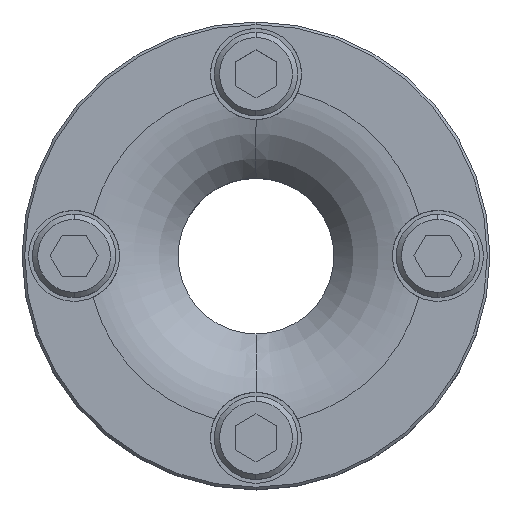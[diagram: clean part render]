
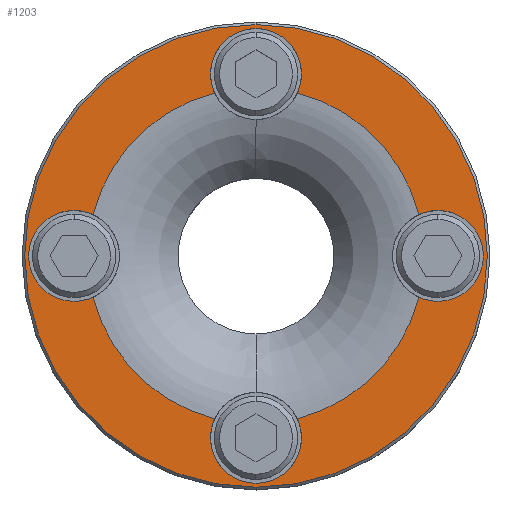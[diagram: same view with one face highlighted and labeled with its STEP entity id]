
A CAD part, top view. The second image highlights one B-rep face of the part: STEP entity #1203.
In plain terms, the highlighted planar face has unit normal (0, 0, 1).
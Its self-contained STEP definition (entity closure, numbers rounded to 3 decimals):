
#126=VERTEX_POINT(' ',#127);
#127=CARTESIAN_POINT('',(0.,-44.5,20.));
#132=VERTEX_POINT(' ',#133);
#133=CARTESIAN_POINT('',(0.,44.5,20.));
#174=VERTEX_POINT(' ',#175);
#175=CARTESIAN_POINT('',(7.943,31.329,20.));
#180=VERTEX_POINT(' ',#181);
#181=CARTESIAN_POINT('',(7.943,-31.329,20.));
#182=VERTEX_POINT(' ',#183);
#183=CARTESIAN_POINT('',(31.329,-7.943,20.));
#184=VERTEX_POINT(' ',#185);
#185=CARTESIAN_POINT('',(31.329,7.943,20.));
#186=VERTEX_POINT(' ',#187);
#187=CARTESIAN_POINT('',(-31.329,-7.943,20.));
#188=VERTEX_POINT(' ',#189);
#189=CARTESIAN_POINT('',(-35.,-8.75,20.));
#190=VERTEX_POINT(' ',#191);
#191=CARTESIAN_POINT('',(-35.,8.75,20.));
#192=VERTEX_POINT(' ',#193);
#193=CARTESIAN_POINT('',(-31.329,7.943,20.));
#194=VERTEX_POINT(' ',#195);
#195=CARTESIAN_POINT('',(-7.943,31.329,20.));
#196=VERTEX_POINT(' ',#197);
#197=CARTESIAN_POINT('',(0.,43.75,20.));
#198=VERTEX_POINT(' ',#199);
#199=CARTESIAN_POINT('',(35.,8.75,20.));
#200=VERTEX_POINT(' ',#201);
#201=CARTESIAN_POINT('',(35.,-8.75,20.));
#202=VERTEX_POINT(' ',#203);
#203=CARTESIAN_POINT('',(0.,-43.75,20.));
#204=VERTEX_POINT(' ',#205);
#205=CARTESIAN_POINT('',(-7.943,-31.329,20.));
#270=CIRCLE('',#271,44.5);
#271=AXIS2_PLACEMENT_3D('',#272,#273,#274);
#272=CARTESIAN_POINT('',(0.,0.,20.));
#273=DIRECTION('',(0.,0.,-1.));
#274=DIRECTION('',(-1.,0.,0.));
#275=EDGE_CURVE(' ',#132,#126,#270,.T.);
#276=CIRCLE('',#277,44.5);
#277=AXIS2_PLACEMENT_3D('',#278,#279,#280);
#278=CARTESIAN_POINT('',(0.,0.,20.));
#279=DIRECTION('',(0.,0.,-1.));
#280=DIRECTION('',(1.,0.,0.));
#281=EDGE_CURVE(' ',#126,#132,#276,.T.);
#530=CIRCLE('',#531,32.321);
#531=AXIS2_PLACEMENT_3D('',#532,#533,#534);
#532=CARTESIAN_POINT('',(0.,0.,20.));
#533=DIRECTION('',(0.,0.,-1.));
#534=DIRECTION('',(-1.,0.,0.));
#535=EDGE_CURVE(' ',#182,#180,#530,.T.);
#557=CIRCLE('',#558,32.321);
#558=AXIS2_PLACEMENT_3D('',#559,#560,#561);
#559=CARTESIAN_POINT('',(0.,0.,20.));
#560=DIRECTION('',(0.,0.,-1.));
#561=DIRECTION('',(-1.,0.,0.));
#562=EDGE_CURVE(' ',#174,#184,#557,.T.);
#563=CIRCLE('',#564,8.75);
#564=AXIS2_PLACEMENT_3D('',#565,#566,#567);
#565=CARTESIAN_POINT('',(-35.,0.,20.));
#566=DIRECTION('',(0.,0.,-1.));
#567=DIRECTION('',(-1.,0.,0.));
#568=EDGE_CURVE(' ',#188,#186,#563,.F.);
#569=CIRCLE('',#570,8.75);
#570=AXIS2_PLACEMENT_3D('',#571,#572,#573);
#571=CARTESIAN_POINT('',(-35.,0.,20.));
#572=DIRECTION('',(0.,0.,-1.));
#573=DIRECTION('',(1.,0.,0.));
#574=EDGE_CURVE(' ',#190,#188,#569,.F.);
#575=CIRCLE('',#576,8.75);
#576=AXIS2_PLACEMENT_3D('',#577,#578,#579);
#577=CARTESIAN_POINT('',(-35.,0.,20.));
#578=DIRECTION('',(0.,0.,-1.));
#579=DIRECTION('',(-1.,0.,0.));
#580=EDGE_CURVE(' ',#192,#190,#575,.F.);
#581=CIRCLE('',#582,32.321);
#582=AXIS2_PLACEMENT_3D('',#583,#584,#585);
#583=CARTESIAN_POINT('',(0.,0.,20.));
#584=DIRECTION('',(0.,0.,-1.));
#585=DIRECTION('',(1.,0.,0.));
#586=EDGE_CURVE(' ',#192,#194,#581,.T.);
#587=CIRCLE('',#588,8.75);
#588=AXIS2_PLACEMENT_3D('',#589,#590,#591);
#589=CARTESIAN_POINT('',(0.,35.,20.));
#590=DIRECTION('',(0.,0.,-1.));
#591=DIRECTION('',(1.,0.,0.));
#592=EDGE_CURVE(' ',#196,#194,#587,.F.);
#593=CIRCLE('',#594,8.75);
#594=AXIS2_PLACEMENT_3D('',#595,#596,#597);
#595=CARTESIAN_POINT('',(0.,35.,20.));
#596=DIRECTION('',(0.,0.,-1.));
#597=DIRECTION('',(-1.,0.,0.));
#598=EDGE_CURVE(' ',#174,#196,#593,.F.);
#599=CIRCLE('',#600,8.75);
#600=AXIS2_PLACEMENT_3D('',#601,#602,#603);
#601=CARTESIAN_POINT('',(35.,0.,20.));
#602=DIRECTION('',(0.,0.,-1.));
#603=DIRECTION('',(1.,0.,0.));
#604=EDGE_CURVE(' ',#198,#184,#599,.F.);
#605=CIRCLE('',#606,8.75);
#606=AXIS2_PLACEMENT_3D('',#607,#608,#609);
#607=CARTESIAN_POINT('',(35.,0.,20.));
#608=DIRECTION('',(0.,0.,-1.));
#609=DIRECTION('',(-1.,0.,0.));
#610=EDGE_CURVE(' ',#200,#198,#605,.F.);
#611=CIRCLE('',#612,8.75);
#612=AXIS2_PLACEMENT_3D('',#613,#614,#615);
#613=CARTESIAN_POINT('',(35.,0.,20.));
#614=DIRECTION('',(0.,0.,-1.));
#615=DIRECTION('',(1.,0.,0.));
#616=EDGE_CURVE(' ',#182,#200,#611,.F.);
#617=CIRCLE('',#618,8.75);
#618=AXIS2_PLACEMENT_3D('',#619,#620,#621);
#619=CARTESIAN_POINT('',(0.,-35.,20.));
#620=DIRECTION('',(0.,0.,-1.));
#621=DIRECTION('',(-1.,0.,0.));
#622=EDGE_CURVE(' ',#202,#180,#617,.F.);
#623=CIRCLE('',#624,8.75);
#624=AXIS2_PLACEMENT_3D('',#625,#626,#627);
#625=CARTESIAN_POINT('',(0.,-35.,20.));
#626=DIRECTION('',(0.,0.,-1.));
#627=DIRECTION('',(1.,0.,0.));
#628=EDGE_CURVE(' ',#204,#202,#623,.F.);
#629=CIRCLE('',#630,32.321);
#630=AXIS2_PLACEMENT_3D('',#631,#632,#633);
#631=CARTESIAN_POINT('',(0.,0.,20.));
#632=DIRECTION('',(0.,0.,-1.));
#633=DIRECTION('',(1.,0.,0.));
#634=EDGE_CURVE(' ',#204,#186,#629,.T.);
#1178=ORIENTED_EDGE('',*,*,#275,.F.);
#1179=ORIENTED_EDGE('',*,*,#281,.F.);
#1180=EDGE_LOOP('',(#1178,#1179));
#1181=FACE_OUTER_BOUND('',#1180,.T.);
#1182=ORIENTED_EDGE('',*,*,#568,.F.);
#1183=ORIENTED_EDGE('',*,*,#574,.F.);
#1184=ORIENTED_EDGE('',*,*,#580,.F.);
#1185=ORIENTED_EDGE('',*,*,#586,.T.);
#1186=ORIENTED_EDGE('',*,*,#592,.F.);
#1187=ORIENTED_EDGE('',*,*,#598,.F.);
#1188=ORIENTED_EDGE('',*,*,#562,.T.);
#1189=ORIENTED_EDGE('',*,*,#604,.F.);
#1190=ORIENTED_EDGE('',*,*,#610,.F.);
#1191=ORIENTED_EDGE('',*,*,#616,.F.);
#1192=ORIENTED_EDGE('',*,*,#535,.T.);
#1193=ORIENTED_EDGE('',*,*,#622,.F.);
#1194=ORIENTED_EDGE('',*,*,#628,.F.);
#1195=ORIENTED_EDGE('',*,*,#634,.T.);
#1196=EDGE_LOOP('',(#1182,#1183,#1184,#1185,#1186,#1187,#1188,#1189,#1190,#1191,#1192,#1193,#1194,#1195));
#1197=FACE_BOUND('',#1196,.T.);
#1198=PLANE('',#1199);
#1199=AXIS2_PLACEMENT_3D('',#1200,#1201,#1202);
#1200=CARTESIAN_POINT('',(0.,0.,20.));
#1201=DIRECTION('',(0.,0.,1.));
#1202=DIRECTION('',(-1.,0.,0.));
#1203=ADVANCED_FACE('',(#1181,#1197),#1198,.T.);
